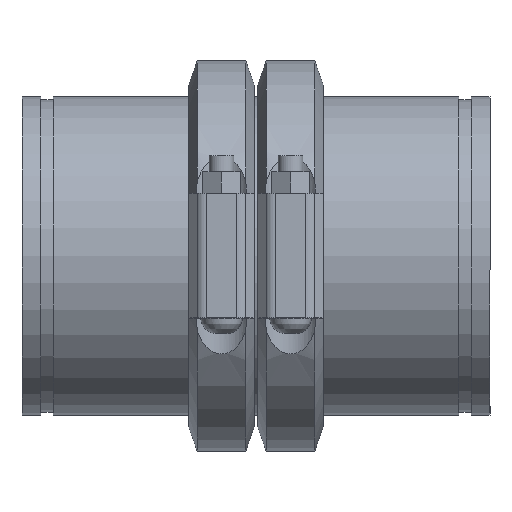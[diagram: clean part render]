
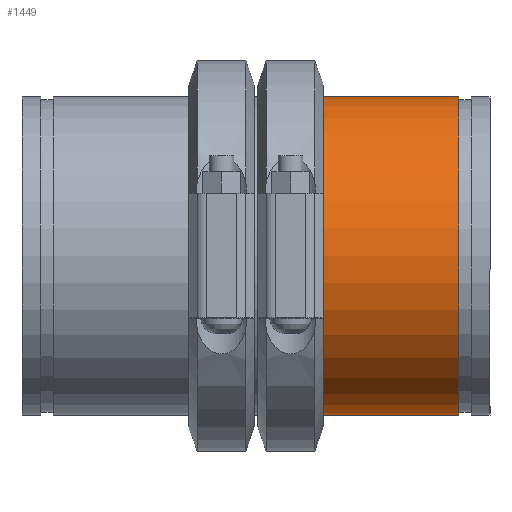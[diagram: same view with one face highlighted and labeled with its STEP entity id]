
A CAD part, top view. The second image highlights one B-rep face of the part: STEP entity #1449.
In plain terms, the highlighted cylindrical face has radius 161.925 mm (diameter 323.85 mm), a full revolution.
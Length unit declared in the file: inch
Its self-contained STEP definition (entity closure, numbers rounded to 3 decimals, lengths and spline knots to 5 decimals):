
#71=LINE('',#2307,#158);
#158=VECTOR('',#1870,6.375);
#245=CYLINDRICAL_SURFACE('',#1656,6.375);
#302=FACE_OUTER_BOUND('',#387,.T.);
#387=EDGE_LOOP('',(#948,#949,#950,#951,#952,#953));
#495=CIRCLE('',#1654,6.375);
#496=CIRCLE('',#1655,6.375);
#497=CIRCLE('',#1657,6.375);
#498=CIRCLE('',#1658,6.375);
#587=VERTEX_POINT('',#2298);
#588=VERTEX_POINT('',#2299);
#589=VERTEX_POINT('',#2303);
#590=VERTEX_POINT('',#2304);
#732=EDGE_CURVE('',#587,#588,#495,.T.);
#733=EDGE_CURVE('',#588,#587,#496,.T.);
#734=EDGE_CURVE('',#589,#590,#497,.T.);
#735=EDGE_CURVE('',#590,#589,#498,.T.);
#736=EDGE_CURVE('',#590,#588,#71,.T.);
#948=ORIENTED_EDGE('',*,*,#734,.F.);
#949=ORIENTED_EDGE('',*,*,#735,.F.);
#950=ORIENTED_EDGE('',*,*,#736,.T.);
#951=ORIENTED_EDGE('',*,*,#733,.T.);
#952=ORIENTED_EDGE('',*,*,#732,.T.);
#953=ORIENTED_EDGE('',*,*,#736,.F.);
#1449=ADVANCED_FACE('',(#302),#245,.T.);
#1654=AXIS2_PLACEMENT_3D('',#2300,#1860,#1861);
#1655=AXIS2_PLACEMENT_3D('',#2301,#1862,#1863);
#1656=AXIS2_PLACEMENT_3D('',#2302,#1864,#1865);
#1657=AXIS2_PLACEMENT_3D('',#2305,#1866,#1867);
#1658=AXIS2_PLACEMENT_3D('',#2306,#1868,#1869);
#1860=DIRECTION('center_axis',(-1.,0.,0.));
#1861=DIRECTION('ref_axis',(0.,0.,1.));
#1862=DIRECTION('center_axis',(-1.,0.,0.));
#1863=DIRECTION('ref_axis',(0.,0.,1.));
#1864=DIRECTION('center_axis',(-1.,0.,0.));
#1865=DIRECTION('ref_axis',(0.,1.,0.));
#1866=DIRECTION('center_axis',(-1.,0.,0.));
#1867=DIRECTION('ref_axis',(0.,0.,1.));
#1868=DIRECTION('center_axis',(-1.,0.,0.));
#1869=DIRECTION('ref_axis',(0.,0.,1.));
#1870=DIRECTION('',(1.,0.,0.));
#2298=CARTESIAN_POINT('',(2.735,6.375,0.));
#2299=CARTESIAN_POINT('',(2.735,-6.375,0.));
#2300=CARTESIAN_POINT('Origin',(2.735,0.,0.));
#2301=CARTESIAN_POINT('Origin',(2.735,0.,0.));
#2302=CARTESIAN_POINT('Origin',(0.,0.,
0.));
#2303=CARTESIAN_POINT('',(-2.735,6.375,0.));
#2304=CARTESIAN_POINT('',(-2.735,-6.375,0.));
#2305=CARTESIAN_POINT('Origin',(-2.735,0.,0.));
#2306=CARTESIAN_POINT('Origin',(-2.735,0.,0.));
#2307=CARTESIAN_POINT('',(0.,-6.375,0.));
